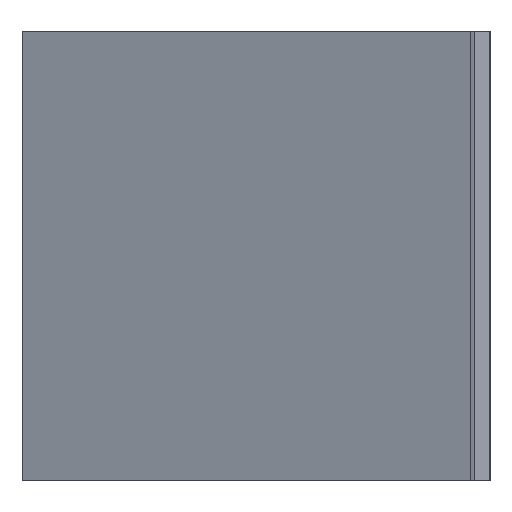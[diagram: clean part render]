
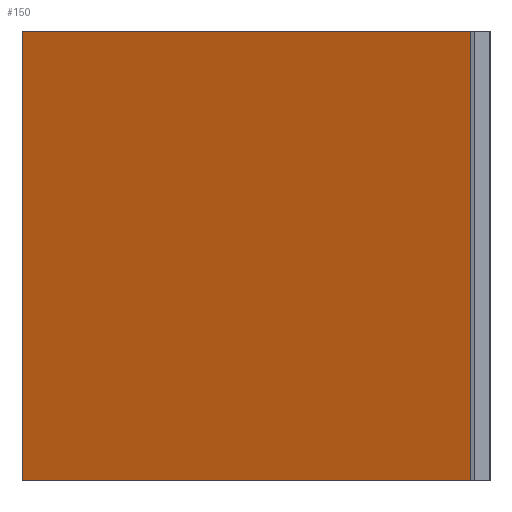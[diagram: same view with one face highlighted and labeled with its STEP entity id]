
A CAD part, left-side view. The second image highlights one B-rep face of the part: STEP entity #150.
In plain terms, the highlighted planar face has unit normal (0.931, -0.364, 0).
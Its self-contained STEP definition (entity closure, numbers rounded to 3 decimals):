
#98=CARTESIAN_POINT('Vertex',(20.,0.,0.)) ;
#101=CARTESIAN_POINT('Line Origine',(20.,0.,57.5)) ;
#105=CARTESIAN_POINT('Vertex',(20.,0.,115.)) ;
#120=CARTESIAN_POINT('Axis2P3D Location',(20.,0.,0.)) ;
#125=CARTESIAN_POINT('Line Origine',(42.5,57.5,0.)) ;
#129=CARTESIAN_POINT('Vertex',(65.,115.,0.)) ;
#132=CARTESIAN_POINT('Line Origine',(65.,115.,57.5)) ;
#136=CARTESIAN_POINT('Vertex',(65.,115.,115.)) ;
#139=CARTESIAN_POINT('Line Origine',(42.5,57.5,115.)) ;
#102=DIRECTION('Vector Direction',(0.,0.,1.)) ;
#121=DIRECTION('Axis2P3D Direction',(0.931,-0.364,0.)) ;
#122=DIRECTION('Axis2P3D XDirection',(0.364,0.931,0.)) ;
#126=DIRECTION('Vector Direction',(0.364,0.931,0.)) ;
#133=DIRECTION('Vector Direction',(0.,0.,1.)) ;
#140=DIRECTION('Vector Direction',(0.364,0.931,0.)) ;
#123=AXIS2_PLACEMENT_3D('Plane Axis2P3D',#120,#121,#122) ;
#145=ORIENTED_EDGE('',*,*,#107,.F.) ;
#146=ORIENTED_EDGE('',*,*,#131,.T.) ;
#147=ORIENTED_EDGE('',*,*,#138,.T.) ;
#148=ORIENTED_EDGE('',*,*,#143,.F.) ;
#103=VECTOR('Line Direction',#102,1.) ;
#127=VECTOR('Line Direction',#126,1.) ;
#134=VECTOR('Line Direction',#133,1.) ;
#141=VECTOR('Line Direction',#140,1.) ;
#150=ADVANCED_FACE('Extrude.1',(#149),#124,.T.) ;
#107=EDGE_CURVE('',#99,#106,#104,.T.) ;
#131=EDGE_CURVE('',#99,#130,#128,.T.) ;
#138=EDGE_CURVE('',#130,#137,#135,.T.) ;
#143=EDGE_CURVE('',#106,#137,#142,.T.) ;
#144=EDGE_LOOP('',(#145,#146,#147,#148)) ;
#149=FACE_OUTER_BOUND('',#144,.T.) ;
#104=LINE('Line',#101,#103) ;
#128=LINE('Line',#125,#127) ;
#135=LINE('Line',#132,#134) ;
#142=LINE('Line',#139,#141) ;
#124=PLANE('',#123) ;
#99=VERTEX_POINT('',#98) ;
#106=VERTEX_POINT('',#105) ;
#130=VERTEX_POINT('',#129) ;
#137=VERTEX_POINT('',#136) ;
